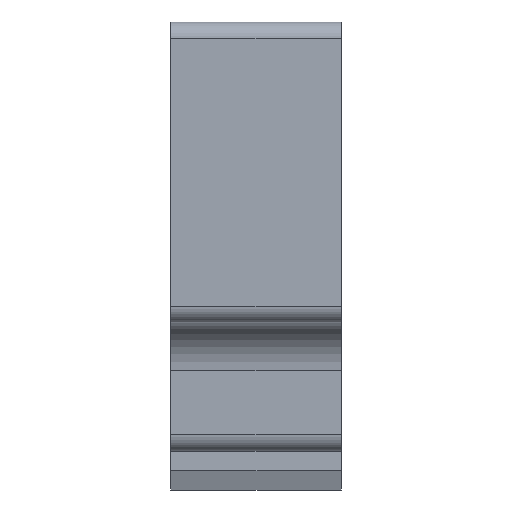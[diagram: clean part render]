
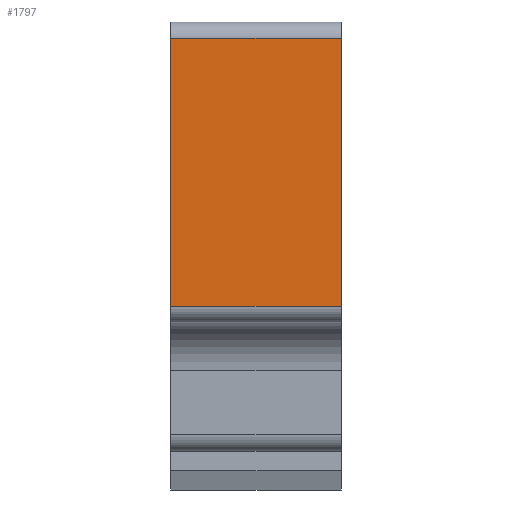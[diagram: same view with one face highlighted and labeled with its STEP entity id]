
A CAD part, top view. The second image highlights one B-rep face of the part: STEP entity #1797.
In plain terms, the highlighted planar face has unit normal (0, 0, 1).
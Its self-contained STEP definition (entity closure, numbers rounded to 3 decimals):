
#40 = EDGE_LOOP ( 'NONE', ( #944, #573, #1203, #1693 ) ) ;
#59 = CARTESIAN_POINT ( 'NONE',  ( -6.25, -1.8, 60.95 ) ) ;
#78 = PLANE ( 'NONE',  #975 ) ;
#156 = LINE ( 'NONE', #984, #1247 ) ;
#180 = CARTESIAN_POINT ( 'NONE',  ( -6.25, -1.8, 60.95 ) ) ;
#221 = VECTOR ( 'NONE', #900, 1000. ) ;
#387 = CARTESIAN_POINT ( 'NONE',  ( 6.25, -1.8, 60.95 ) ) ;
#452 = EDGE_CURVE ( 'NONE', #1115, #793, #683, .T. ) ;
#515 = CARTESIAN_POINT ( 'NONE',  ( -6.25, -1.8, 60.95 ) ) ;
#573 = ORIENTED_EDGE ( 'NONE', *, *, #1409, .F. ) ;
#606 = LINE ( 'NONE', #1277, #1504 ) ;
#648 = EDGE_CURVE ( 'NONE', #1319, #1115, #824, .T. ) ;
#672 = DIRECTION ( 'NONE',  ( 0., 1., 0. ) ) ;
#683 = LINE ( 'NONE', #387, #221 ) ;
#724 = CARTESIAN_POINT ( 'NONE',  ( 6.25, 17.8, 60.95 ) ) ;
#793 = VERTEX_POINT ( 'NONE', #724 ) ;
#824 = LINE ( 'NONE', #180, #1076 ) ;
#900 = DIRECTION ( 'NONE',  ( 0., 1., 0. ) ) ;
#944 = ORIENTED_EDGE ( 'NONE', *, *, #452, .T. ) ;
#966 = DIRECTION ( 'NONE',  ( 0., -1., 0. ) ) ;
#975 = AXIS2_PLACEMENT_3D ( 'NONE', #515, #987, #966 ) ;
#984 = CARTESIAN_POINT ( 'NONE',  ( -6.25, -1.8, 60.95 ) ) ;
#987 = DIRECTION ( 'NONE',  ( 0., 0., -1. ) ) ;
#1005 = FACE_OUTER_BOUND ( 'NONE', #40, .T. ) ;
#1076 = VECTOR ( 'NONE', #1806, 1000. ) ;
#1115 = VERTEX_POINT ( 'NONE', #1356 ) ;
#1163 = CARTESIAN_POINT ( 'NONE',  ( -6.25, 17.8, 60.95 ) ) ;
#1203 = ORIENTED_EDGE ( 'NONE', *, *, #1355, .F. ) ;
#1247 = VECTOR ( 'NONE', #672, 1000. ) ;
#1277 = CARTESIAN_POINT ( 'NONE',  ( -6.25, 17.8, 60.95 ) ) ;
#1319 = VERTEX_POINT ( 'NONE', #59 ) ;
#1355 = EDGE_CURVE ( 'NONE', #1319, #1533, #156, .T. ) ;
#1356 = CARTESIAN_POINT ( 'NONE',  ( 6.25, -1.8, 60.95 ) ) ;
#1409 = EDGE_CURVE ( 'NONE', #1533, #793, #606, .T. ) ;
#1504 = VECTOR ( 'NONE', #1859, 1000. ) ;
#1533 = VERTEX_POINT ( 'NONE', #1163 ) ;
#1693 = ORIENTED_EDGE ( 'NONE', *, *, #648, .T. ) ;
#1797 = ADVANCED_FACE ( 'NONE', ( #1005 ), #78, .F. ) ;
#1806 = DIRECTION ( 'NONE',  ( 1., 0., 0. ) ) ;
#1859 = DIRECTION ( 'NONE',  ( 1., 0., 0. ) ) ;
